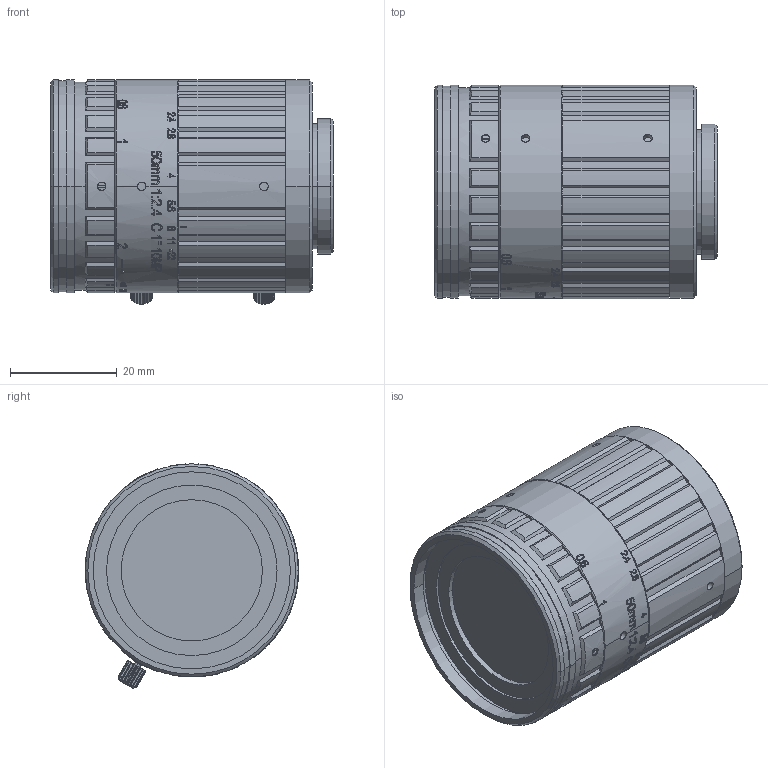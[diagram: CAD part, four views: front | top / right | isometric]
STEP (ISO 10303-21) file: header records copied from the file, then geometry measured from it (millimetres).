
FILE_DESCRIPTION((''),'2;1');
FILE_NAME('OPT-C5024-10M-V1_0','2019-09-12T10:53:51',('dcsongs'),(''),'CREO PARAMETRIC BY PTC INC, 2018400','CREO PARAMETRIC BY PTC INC, 2018400','');
FILE_SCHEMA(('AUTOMOTIVE_DESIGN { 1 0 10303 214 1 1 1 1 }'));
Products named in the file (1): OPT-C5024-10M-V1_0
Bounding box: 53.1 x 40.08 x 42.13 mm (x, y, z)
Volume: 55174.2 mm3; surface area: 13249.5 mm2
Topology: 1 solids, 1 shells, 1323 faces, 3696 edges, 2461 vertices
Faces by surface type: bspline 498, plane 459, cylinder 315, cone 41, extrusion 10
Entity records: 57336 total; most frequent: CARTESIAN_POINT 26512, ORIENTED_EDGE 7392, DIRECTION 4781, EDGE_CURVE 3696, VERTEX_POINT 2460, VECTOR 1645, LINE 1635, AXIS2_PLACEMENT_3D 1568
